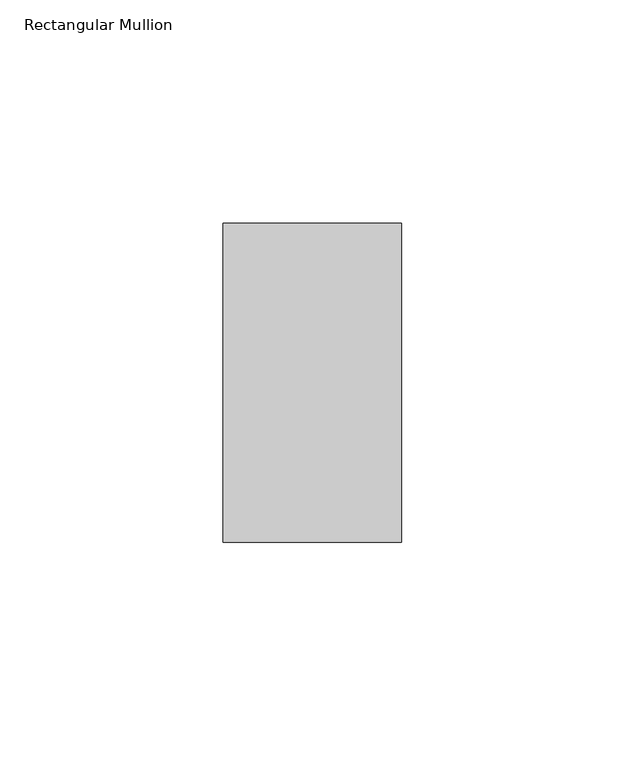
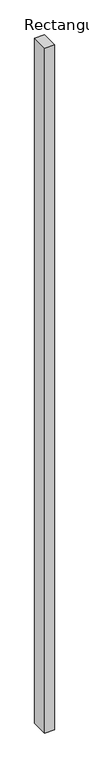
"""IFC4 building model written with IfcOpenShell, lengths in millimetres: member geometry, Rectangular Mullion : RSen_21_CWM_support profile - 40x70-double_gen_duco projects."""

import ifcopenshell
import ifcopenshell.guid

model = None  # the IFC model being written
_history = None  # IfcOwnerHistory: only IFC2X3 demands one
_inside = {}  # id of a spatial element -> (the spatial element, [elements in it])
_under = {}  # id of a project, library or spatial element -> (it, [spatial elements below it])
_declared = {}  # id of a project -> (the project, [libraries it declares])
_typed = {}  # id of a type object -> (the type object, [elements of that type])
_made_of = {}  # id of a material, layer set ... -> (it, [elements and type objects made of it])


def new_model(schema):
    """Start an empty IFC model of exactly this schema.

    Asked for "IFC4X3", IfcOpenShell would pick the latest addendum, in which some entities
    have other attributes; the version numbers below select the first issue.
    IFC2X3 requires an IfcOwnerHistory on every rooted entity: one is made here for all.
    """
    global model, _history
    if schema == "IFC4X3":
        model = ifcopenshell.file(schema_version=(4, 3, 0, 0))
    else:
        model = ifcopenshell.file(schema=schema)
    _inside.clear()
    _under.clear()
    _declared.clear()
    _typed.clear()
    _made_of.clear()
    _history = None
    if model.schema == "IFC2X3":
        org = make("IfcOrganization", Name="unknown")
        user = make(
            "IfcPersonAndOrganization",
            ThePerson=make("IfcPerson", FamilyName="unknown"),
            TheOrganization=org,
        )
        app = make(
            "IfcApplication",
            ApplicationDeveloper=org,
            Version="unknown",
            ApplicationFullName="unknown",
            ApplicationIdentifier="unknown",
        )
        _history = make(
            "IfcOwnerHistory",
            OwningUser=user,
            OwningApplication=app,
            ChangeAction="ADDED",
            CreationDate=0,
        )
    return model


def make(cls, **values):
    """One entity of the class cls with the attributes given. An attribute that is None is left unset."""
    return model.create_entity(
        cls, **{name: value for name, value in values.items() if value is not None}
    )


def rooted(cls, **values):
    """An entity with a GlobalId (a new one), such as an element, a storey or a relation."""
    return make(cls, GlobalId=ifcopenshell.guid.new(), OwnerHistory=_history, **values)


def si_unit(unit_type, name, prefix=None):
    """IfcSIUnit, for example si_unit("LENGTHUNIT", "METRE", prefix="MILLI")."""
    return make("IfcSIUnit", UnitType=unit_type, Prefix=prefix, Name=name)


def assignment(units):
    """IfcUnitAssignment: the units of a project."""
    return None if units is None else make("IfcUnitAssignment", Units=units)


def point(xyz):
    """IfcCartesianPoint."""
    return None if xyz is None else make("IfcCartesianPoint", Coordinates=xyz)


def direction(xyz):
    """IfcDirection."""
    return None if xyz is None else make("IfcDirection", DirectionRatios=xyz)


def frame(location, z_axis=None, x_axis=None):
    """IfcAxis2Placement3D, a coordinate frame: its origin and axes. An axis left out is left unset."""
    return make(
        "IfcAxis2Placement3D",
        Location=point(location),
        Axis=direction(z_axis),
        RefDirection=direction(x_axis),
    )


def origin():
    """The frame at (0, 0, 0) with its axes left unset."""
    return frame((0.0, 0.0, 0.0))


def place(relative_to, where):
    """IfcLocalPlacement: puts the frame where relative to a parent placement (None: the world)."""
    return make(
        "IfcLocalPlacement", PlacementRelTo=relative_to, RelativePlacement=where
    )


def context(
    kind, dimensions, precision=None, world=None, true_north=None, identifier=None
):
    """IfcGeometricRepresentationContext, for example the 3D "Model" context."""
    return make(
        "IfcGeometricRepresentationContext",
        ContextIdentifier=identifier,
        ContextType=kind,
        CoordinateSpaceDimension=dimensions,
        Precision=precision,
        WorldCoordinateSystem=world,
        TrueNorth=true_north,
    )


def project(units=None, contexts=None):
    """IfcProject with its units and contexts."""
    return rooted(
        "IfcProject",
        Name="project",
        RepresentationContexts=contexts,
        UnitsInContext=assignment(units),
    )


def spatial(cls, under=None, at=None, **own):
    """A site, building, storey or space (cls), placed at a placement, below another one or the project."""
    s = rooted(cls, ObjectPlacement=at, **own)
    if under is not None:
        _under.setdefault(under.id(), (under, []))[1].append(s)
    return s


def polyline(points):
    """IfcPolyline through the points."""
    return make("IfcPolyline", Points=[point(p) for p in points])


def outline(outer, holes=None, kind="AREA"):
    """IfcArbitraryClosedProfileDef: a profile drawn as a closed curve; with holes, ...WithVoids."""
    if holes is None:
        return make("IfcArbitraryClosedProfileDef", ProfileType=kind, OuterCurve=outer)
    return make(
        "IfcArbitraryProfileDefWithVoids",
        ProfileType=kind,
        OuterCurve=outer,
        InnerCurves=holes,
    )


def extrude(swept, where, along, depth):
    """IfcExtrudedAreaSolid: the profile swept, set in the frame where, extruded along a direction by depth."""
    return make(
        "IfcExtrudedAreaSolid",
        SweptArea=swept,
        Position=where,
        ExtrudedDirection=direction(along),
        Depth=depth,
    )


def shape(context_of_items, identifier, shape_type, items):
    """IfcShapeRepresentation: the items that make up one representation, for example the "Body"."""
    return make(
        "IfcShapeRepresentation",
        ContextOfItems=context_of_items,
        RepresentationIdentifier=identifier,
        RepresentationType=shape_type,
        Items=items,
    )


def source(mapping_origin, context_of_items, identifier, shape_type, items):
    """IfcRepresentationMap: a shape defined once, which mapped items show again and again."""
    return make(
        "IfcRepresentationMap",
        MappingOrigin=mapping_origin,
        MappedRepresentation=shape(context_of_items, identifier, shape_type, items),
    )


def transform(
    local_origin,
    x_axis=None,
    y_axis=None,
    z_axis=None,
    scale=None,
    scale2=None,
    scale3=None,
    uniform=True,
):
    """IfcCartesianTransformationOperator3D, or its non-uniform kind. x_axis, y_axis, z_axis: its Axis1, 2, 3."""
    if uniform:
        return make(
            "IfcCartesianTransformationOperator3D",
            Axis1=direction(x_axis),
            Axis2=direction(y_axis),
            LocalOrigin=point(local_origin),
            Scale=scale,
            Axis3=direction(z_axis),
        )
    return make(
        "IfcCartesianTransformationOperator3DnonUniform",
        Axis1=direction(x_axis),
        Axis2=direction(y_axis),
        LocalOrigin=point(local_origin),
        Scale=scale,
        Axis3=direction(z_axis),
        Scale2=scale2,
        Scale3=scale3,
    )


def mapped(mapping_source, mapping_target):
    """IfcMappedItem: shows the shape of a source again, moved by a transform."""
    return make(
        "IfcMappedItem", MappingSource=mapping_source, MappingTarget=mapping_target
    )


def made_of(thing, what):
    """Note that an element or type object is made of a material, layer set ...; save() writes the relation."""
    if what is not None:
        _made_of.setdefault(what.id(), (what, []))[1].append(thing)
    return thing


def element(
    cls,
    number,
    at=None,
    inside=None,
    cuts=None,
    type_object=None,
    material=None,
    context=None,
    identifier="Body",
    shape_type=None,
    held_by="IfcProductDefinitionShape",
    body=None,
    shapes=None,
    **own,
):
    """One element of the class cls, such as IfcWall. Its Tag is "e" and its number.

    at: its placement. inside: the storey or other place that contains it. cuts: it is an
    opening in that element (IfcRelVoidsElement). A single representation is given by context,
    identifier, shape_type and body (its items); several are given by shapes. held_by: the class
    of the entity that holds the representations. save() writes the other relations.
    """
    e = rooted(cls, Tag="e%d" % number, ObjectPlacement=at, **own)
    if body is not None:
        shapes = [shape(context, identifier, shape_type, body)]
    if shapes is not None:
        e.Representation = make(held_by, Representations=shapes)
    if inside is not None:
        _inside.setdefault(inside.id(), (inside, []))[1].append(e)
    if cuts is not None:
        rooted(
            "IfcRelVoidsElement", RelatingBuildingElement=cuts, RelatedOpeningElement=e
        )
    if type_object is not None:
        _typed.setdefault(type_object.id(), (type_object, []))[1].append(e)
    return made_of(e, material)


def aggregate(whole, parts):
    """IfcRelAggregates: a whole, such as a stair, and the parts it consists of."""
    return rooted("IfcRelAggregates", RelatingObject=whole, RelatedObjects=parts)


def save(model, path):
    """Write the relations noted so far, then the file.

    IfcRelAggregates (storeys below a building ...), IfcRelContainedInSpatialStructure (elements
    in a storey), IfcRelDefinesByType, IfcRelAssociatesMaterial and IfcRelDeclares: one each for
    every whole, place, type object, material and project.
    """
    for whole, parts in _under.values():
        aggregate(whole, parts)
    for where, things in _inside.values():
        rooted(
            "IfcRelContainedInSpatialStructure",
            RelatedElements=things,
            RelatingStructure=where,
        )
    for kind, things in _typed.values():
        rooted("IfcRelDefinesByType", RelatedObjects=things, RelatingType=kind)
    for what, things in _made_of.values():
        rooted("IfcRelAssociatesMaterial", RelatedObjects=things, RelatingMaterial=what)
    for by, libraries in _declared.values():
        rooted("IfcRelDeclares", RelatingContext=by, RelatedDefinitions=libraries)
    model.write(path)


def rectangular_mullion_3da17bfe(model_context):
    return source(origin(), model_context, "Body", "SweptSolid", [
        extrude(outline(polyline([(20.0, 0.0), (20.0, -71.5), (-20.0, -71.5), (-20.0, 0.0), (20.0, 0.0)])), frame((0.0, 0.0, -3000.0), z_axis=(0.0, 0.0, 1.0), x_axis=(1.0, 0.0, 0.0)), (0.0, 0.0, 1.0), 3000.0),
    ])


if __name__ == "__main__":
    model = new_model("IFC4")
    model_context = context("Model", 3, world=origin())
    ifc_project = project(units=[si_unit("LENGTHUNIT", "METRE", prefix="MILLI")], contexts=[model_context])
    site = spatial("IfcSite", under=ifc_project)
    building = spatial("IfcBuilding", under=site)
    placement = place(None, origin())
    rectangular_mullion_shape = rectangular_mullion_3da17bfe(model_context)
    element("IfcMember", 1, ObjectType="Rectangular Mullion : RSen_21_CWM_support profile - 40x70-double_gen_duco projects", at=placement, inside=building, context=model_context, shape_type="MappedRepresentation", body=[
        mapped(rectangular_mullion_shape, transform((0.0, 0.0, 0.0), x_axis=(1.0, 0.0, 0.0), y_axis=(0.0, 1.0, 0.0), z_axis=(0.0, 0.0, 1.0))),
    ])
    save(model, "model.ifc")
